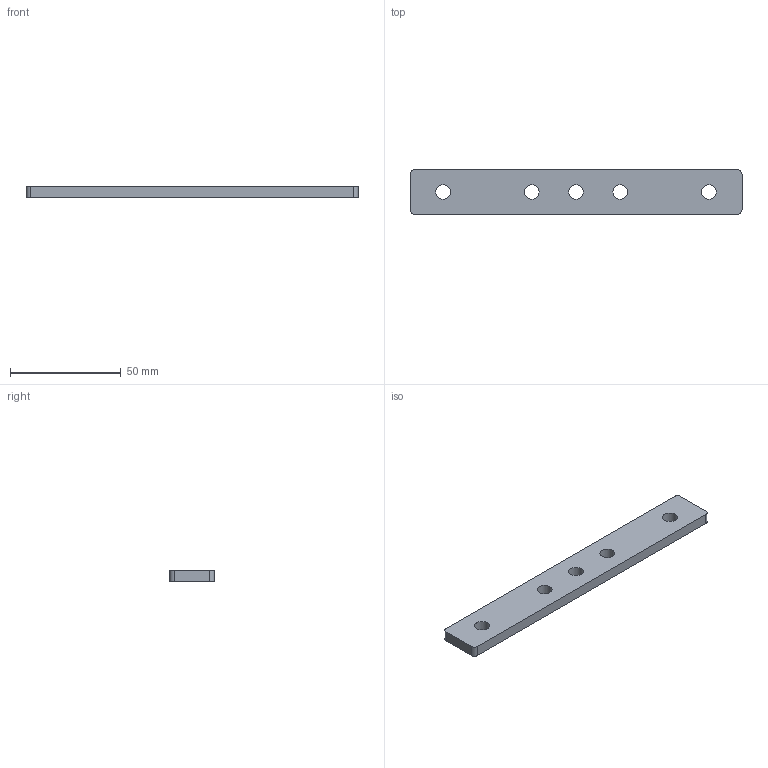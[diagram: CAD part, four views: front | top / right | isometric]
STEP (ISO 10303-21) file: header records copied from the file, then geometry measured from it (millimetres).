
FILE_DESCRIPTION(/* description */ ('CONNECTING STRIP STAINLESS STEEL'),/* implementation_level */ '2;1');
FILE_NAME(/* name */ '\\carryline.intra\privat\users\mathias\Desktop\Tillfälliga filer\100-7011.stp',/* time_stamp */ '2018-11-20T11:11:58+01:00',/* author */ ('PL'),/* organization */ ('CARRYLINE'),/* preprocessor_version */ 'ST-DEVELOPER v17',/* originating_system */ 'Autodesk Inventor 2018',/* authorisation */ '');
FILE_SCHEMA (('AUTOMOTIVE_DESIGN { 1 0 10303 214 3 1 1 }'));
Length unit declared in the file: millimetre
Products named in the file (1): 100-7011
Bounding box: 150 x 20 x 5 mm (x, y, z)
Volume: 14115.3 mm3; surface area: 7851 mm2
Topology: 1 solids, 1 shells, 15 faces, 44 edges, 31 vertices
Faces by surface type: cylinder 9, plane 6
Full cylindrical faces by diameter (mm): 6.647 x5
Entity records: 580 total; most frequent: DIRECTION 99, CARTESIAN_POINT 91, ORIENTED_EDGE 88, EDGE_CURVE 44, AXIS2_PLACEMENT_3D 39, VERTEX_POINT 31, EDGE_LOOP 25, CIRCLE 23
